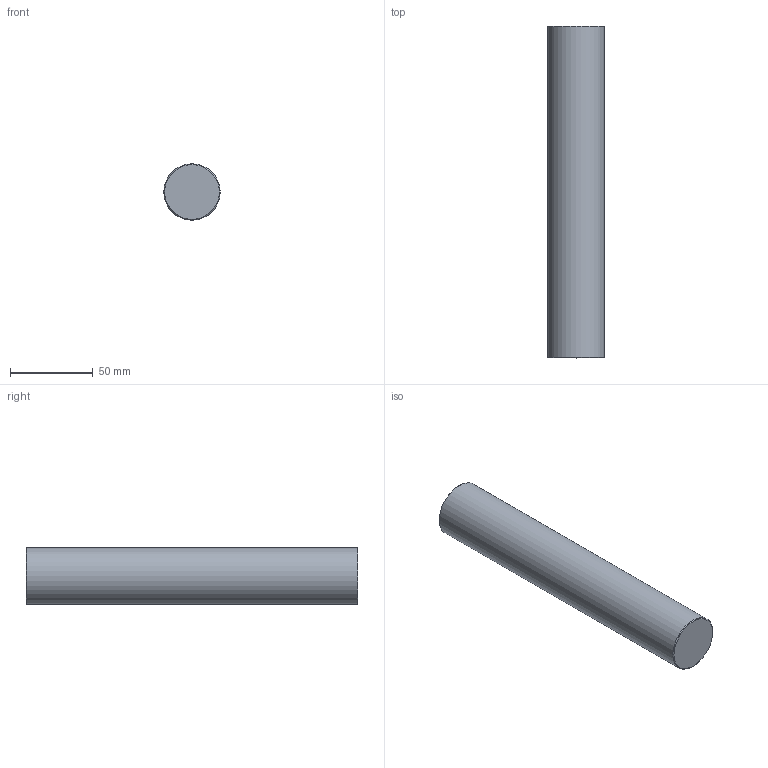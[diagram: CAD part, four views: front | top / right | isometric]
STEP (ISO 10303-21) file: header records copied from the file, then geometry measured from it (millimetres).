
FILE_DESCRIPTION(/* description */ (''),/* implementation_level */ '2;1');
FILE_NAME(/* name */ 'BM02-34D-200L.step',/* time_stamp */ '2023-10-24T13:56:55+09:00',/* author */ (''),/* organization */ (''),/* preprocessor_version */ 'ST-DEVELOPER v20',/* originating_system */ 'Autodesk Translation Framework v12.14.0.127',/* authorisation */ '');
FILE_SCHEMA (('AUTOMOTIVE_DESIGN { 1 0 10303 214 3 1 1 }'));
Length unit declared in the file: millimetre
Products named in the file (1): BM02-34D-200L
Bounding box: 34 x 200 x 34 mm (x, y, z)
Volume: 180652.5 mm3; surface area: 23526.7 mm2
Topology: 1 solids, 1 shells, 7 faces, 12 edges, 7 vertices
Faces by surface type: cone 3, cylinder 2, plane 2
Full cylindrical faces by diameter (mm): 8.526 x1, 34 x1
Entity records: 203 total; most frequent: DIRECTION 33, CARTESIAN_POINT 26, ORIENTED_EDGE 22, AXIS2_PLACEMENT_3D 14, EDGE_CURVE 11, EDGE_LOOP 8, FACE_OUTER_BOUND 7, VERTEX_POINT 7
